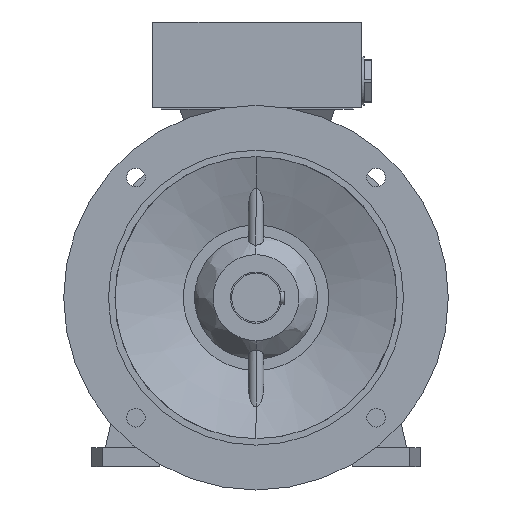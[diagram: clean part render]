
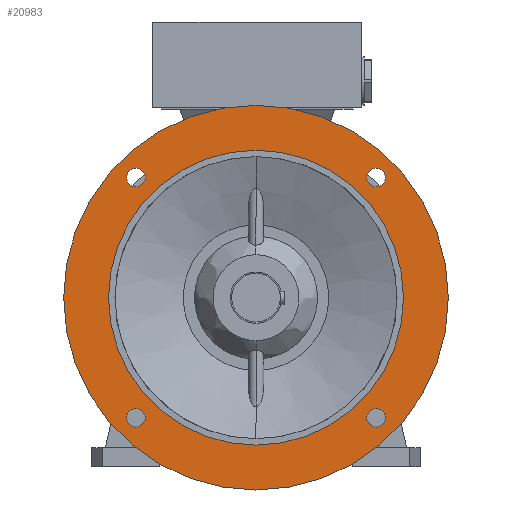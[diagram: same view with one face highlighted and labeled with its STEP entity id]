
A CAD part, left-side view. The second image highlights one B-rep face of the part: STEP entity #20983.
In plain terms, the highlighted planar face has unit normal (-1, 0, 0).
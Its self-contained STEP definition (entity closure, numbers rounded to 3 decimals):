
#737 = EDGE_CURVE ( 'NONE', #17603, #17576, #11877, .T. ) ;
#741 = EDGE_CURVE ( 'NONE', #17601, #17596, #11883, .T. ) ;
#745 = EDGE_CURVE ( 'NONE', #17600, #17583, #11889, .T. ) ;
#1430 = CIRCLE ( 'NONE', #23674, 7.25 ) ;
#1440 = CIRCLE ( 'NONE', #23677, 150. ) ;
#1441 = CIRCLE ( 'NONE', #23678, 115. ) ;
#2095 = CIRCLE ( 'NONE', #23717, 115. ) ;
#2141 = CIRCLE ( 'NONE', #15042, 150. ) ;
#2145 = CIRCLE ( 'NONE', #22232, 7.25 ) ;
#2147 = CIRCLE ( 'NONE', #22233, 7.25 ) ;
#2150 = CIRCLE ( 'NONE', #22234, 7.25 ) ;
#2152 = CIRCLE ( 'NONE', #22235, 7.25 ) ;
#3256 = FACE_BOUND ( 'NONE', #12426, .T. ) ;
#3281 = FACE_BOUND ( 'NONE', #12415, .T. ) ;
#3285 = FACE_OUTER_BOUND ( 'NONE', #12416, .T. ) ;
#3286 = FACE_BOUND ( 'NONE', #12420, .T. ) ;
#3287 = FACE_BOUND ( 'NONE', #12417, .T. ) ;
#3288 = FACE_BOUND ( 'NONE', #12414, .T. ) ;
#4018 = CARTESIAN_POINT ( 'NONE',  ( -50.5, -93.692, 93.692 ) ) ;
#4019 = DIRECTION ( 'NONE',  ( 1., 0., 0. ) ) ;
#4020 = DIRECTION ( 'NONE',  ( 0., 0., -1. ) ) ;
#4033 = CARTESIAN_POINT ( 'NONE',  ( -50.5, 0., 0. ) ) ;
#4034 = DIRECTION ( 'NONE',  ( 1., 0., 0. ) ) ;
#4035 = DIRECTION ( 'NONE',  ( 0., 0., 1. ) ) ;
#4039 = CARTESIAN_POINT ( 'NONE',  ( -50.5, 0., 0. ) ) ;
#4040 = DIRECTION ( 'NONE',  ( 1., 0., 0. ) ) ;
#4041 = DIRECTION ( 'NONE',  ( 0., 0., 1. ) ) ;
#4859 = CARTESIAN_POINT ( 'NONE',  ( -50.5, 0., 0. ) ) ;
#4861 = DIRECTION ( 'NONE',  ( 1., 0., 0. ) ) ;
#4863 = DIRECTION ( 'NONE',  ( 0., 0., 1. ) ) ;
#4906 = CARTESIAN_POINT ( 'NONE',  ( -50.5, 0., 0. ) ) ;
#4908 = DIRECTION ( 'NONE',  ( 1., 0., 0. ) ) ;
#4909 = DIRECTION ( 'NONE',  ( 0., 0., 1. ) ) ;
#4911 = CARTESIAN_POINT ( 'NONE',  ( -50.5, -93.692, 93.692 ) ) ;
#4913 = DIRECTION ( 'NONE',  ( 1., 0., 0. ) ) ;
#4915 = DIRECTION ( 'NONE',  ( 0., 0., -1. ) ) ;
#4919 = CARTESIAN_POINT ( 'NONE',  ( -50.5, 93.692, 93.692 ) ) ;
#4921 = DIRECTION ( 'NONE',  ( 1., 0., 0. ) ) ;
#4923 = DIRECTION ( 'NONE',  ( 0., 0., -1. ) ) ;
#4929 = CARTESIAN_POINT ( 'NONE',  ( -50.5, 93.692, -93.692 ) ) ;
#4931 = DIRECTION ( 'NONE',  ( 1., 0., 0. ) ) ;
#4933 = DIRECTION ( 'NONE',  ( 0., 0., -1. ) ) ;
#4938 = CARTESIAN_POINT ( 'NONE',  ( -50.5, -93.692, -93.692 ) ) ;
#4940 = DIRECTION ( 'NONE',  ( 1., 0., 0. ) ) ;
#4941 = DIRECTION ( 'NONE',  ( 0., 0., -1. ) ) ;
#6559 = CARTESIAN_POINT ( 'NONE',  ( -50.5, 0., -115. ) ) ;
#6574 = CARTESIAN_POINT ( 'NONE',  ( -50.5, -93.692, -100.942 ) ) ;
#6575 = CARTESIAN_POINT ( 'NONE',  ( -50.5, -93.692, 86.442 ) ) ;
#6581 = CARTESIAN_POINT ( 'NONE',  ( -50.5, 93.692, 86.442 ) ) ;
#6582 = CARTESIAN_POINT ( 'NONE',  ( -50.5, 0., 115. ) ) ;
#6583 = CARTESIAN_POINT ( 'NONE',  ( -50.5, -93.692, 100.942 ) ) ;
#6585 = CARTESIAN_POINT ( 'NONE',  ( -50.5, 0., -150. ) ) ;
#6594 = CARTESIAN_POINT ( 'NONE',  ( -50.5, 93.692, -100.942 ) ) ;
#6598 = CARTESIAN_POINT ( 'NONE',  ( -50.5, 93.692, 100.942 ) ) ;
#6599 = CARTESIAN_POINT ( 'NONE',  ( -50.5, 93.692, -86.442 ) ) ;
#6601 = CARTESIAN_POINT ( 'NONE',  ( -50.5, -93.692, -86.442 ) ) ;
#6606 = CARTESIAN_POINT ( 'NONE',  ( -50.5, 0., 150. ) ) ;
#8542 = CARTESIAN_POINT ( 'NONE',  ( -50.5, 93.692, 93.692 ) ) ;
#8543 = DIRECTION ( 'NONE',  ( 1., 0., 0. ) ) ;
#8544 = DIRECTION ( 'NONE',  ( 0., 0., -1. ) ) ;
#8616 = ORIENTED_EDGE ( 'NONE', *, *, #741, .T. ) ;
#8618 = ORIENTED_EDGE ( 'NONE', *, *, #26695, .T. ) ;
#8628 = ORIENTED_EDGE ( 'NONE', *, *, #745, .T. ) ;
#8633 = ORIENTED_EDGE ( 'NONE', *, *, #26078, .F. ) ;
#8634 = ORIENTED_EDGE ( 'NONE', *, *, #26689, .T. ) ;
#8636 = ORIENTED_EDGE ( 'NONE', *, *, #737, .T. ) ;
#8638 = ORIENTED_EDGE ( 'NONE', *, *, #26057, .T. ) ;
#8641 = ORIENTED_EDGE ( 'NONE', *, *, #26691, .T. ) ;
#8648 = ORIENTED_EDGE ( 'NONE', *, *, #26682, .F. ) ;
#8659 = ORIENTED_EDGE ( 'NONE', *, *, #26644, .T. ) ;
#8662 = ORIENTED_EDGE ( 'NONE', *, *, #26084, .T. ) ;
#8664 = ORIENTED_EDGE ( 'NONE', *, *, #26686, .T. ) ;
#9517 = CARTESIAN_POINT ( 'NONE',  ( -50.5, -93.692, -93.692 ) ) ;
#9518 = DIRECTION ( 'NONE',  ( 1., 0., 0. ) ) ;
#9519 = DIRECTION ( 'NONE',  ( 0., 0., -1. ) ) ;
#9527 = CARTESIAN_POINT ( 'NONE',  ( -50.5, 93.692, -93.692 ) ) ;
#9528 = DIRECTION ( 'NONE',  ( 1., 0., 0. ) ) ;
#9529 = DIRECTION ( 'NONE',  ( 0., 0., -1. ) ) ;
#11877 = CIRCLE ( 'NONE', #16015, 7.25 ) ;
#11883 = CIRCLE ( 'NONE', #16017, 7.25 ) ;
#11889 = CIRCLE ( 'NONE', #16019, 7.25 ) ;
#12414 = EDGE_LOOP ( 'NONE', ( #8618, #8636 ) ) ;
#12415 = EDGE_LOOP ( 'NONE', ( #8664, #8638 ) ) ;
#12416 = EDGE_LOOP ( 'NONE', ( #8648, #8633 ) ) ;
#12417 = EDGE_LOOP ( 'NONE', ( #8659, #8662 ) ) ;
#12420 = EDGE_LOOP ( 'NONE', ( #8634, #8628 ) ) ;
#12426 = EDGE_LOOP ( 'NONE', ( #8641, #8616 ) ) ;
#14995 = AXIS2_PLACEMENT_3D ( 'NONE', #26997, #26986, #26999 ) ;
#15042 = AXIS2_PLACEMENT_3D ( 'NONE', #4906, #4908, #4909 ) ;
#16015 = AXIS2_PLACEMENT_3D ( 'NONE', #9517, #9518, #9519 ) ;
#16017 = AXIS2_PLACEMENT_3D ( 'NONE', #9527, #9528, #9529 ) ;
#16019 = AXIS2_PLACEMENT_3D ( 'NONE', #8542, #8543, #8544 ) ;
#17570 = VERTEX_POINT ( 'NONE', #6559 ) ;
#17576 = VERTEX_POINT ( 'NONE', #6574 ) ;
#17577 = VERTEX_POINT ( 'NONE', #6575 ) ;
#17583 = VERTEX_POINT ( 'NONE', #6581 ) ;
#17584 = VERTEX_POINT ( 'NONE', #6582 ) ;
#17585 = VERTEX_POINT ( 'NONE', #6583 ) ;
#17587 = VERTEX_POINT ( 'NONE', #6585 ) ;
#17596 = VERTEX_POINT ( 'NONE', #6594 ) ;
#17600 = VERTEX_POINT ( 'NONE', #6598 ) ;
#17601 = VERTEX_POINT ( 'NONE', #6599 ) ;
#17603 = VERTEX_POINT ( 'NONE', #6601 ) ;
#17608 = VERTEX_POINT ( 'NONE', #6606 ) ;
#20983 = ADVANCED_FACE ( 'NONE', ( #3285, #3287, #3281, #3286, #3256, #3288 ), #26983, .T. ) ;
#22232 = AXIS2_PLACEMENT_3D ( 'NONE', #4911, #4913, #4915 ) ;
#22233 = AXIS2_PLACEMENT_3D ( 'NONE', #4919, #4921, #4923 ) ;
#22234 = AXIS2_PLACEMENT_3D ( 'NONE', #4929, #4931, #4933 ) ;
#22235 = AXIS2_PLACEMENT_3D ( 'NONE', #4938, #4940, #4941 ) ;
#23674 = AXIS2_PLACEMENT_3D ( 'NONE', #4018, #4019, #4020 ) ;
#23677 = AXIS2_PLACEMENT_3D ( 'NONE', #4033, #4034, #4035 ) ;
#23678 = AXIS2_PLACEMENT_3D ( 'NONE', #4039, #4040, #4041 ) ;
#23717 = AXIS2_PLACEMENT_3D ( 'NONE', #4859, #4861, #4863 ) ;
#26057 = EDGE_CURVE ( 'NONE', #17585, #17577, #1430, .T. ) ;
#26078 = EDGE_CURVE ( 'NONE', #17587, #17608, #1440, .T. ) ;
#26084 = EDGE_CURVE ( 'NONE', #17570, #17584, #1441, .T. ) ;
#26644 = EDGE_CURVE ( 'NONE', #17584, #17570, #2095, .T. ) ;
#26682 = EDGE_CURVE ( 'NONE', #17608, #17587, #2141, .T. ) ;
#26686 = EDGE_CURVE ( 'NONE', #17577, #17585, #2145, .T. ) ;
#26689 = EDGE_CURVE ( 'NONE', #17583, #17600, #2147, .T. ) ;
#26691 = EDGE_CURVE ( 'NONE', #17596, #17601, #2150, .T. ) ;
#26695 = EDGE_CURVE ( 'NONE', #17576, #17603, #2152, .T. ) ;
#26983 = PLANE ( 'NONE',  #14995 ) ;
#26986 = DIRECTION ( 'NONE',  ( -1., 0., 0. ) ) ;
#26997 = CARTESIAN_POINT ( 'NONE',  ( -50.5, 132.5, 0. ) ) ;
#26999 = DIRECTION ( 'NONE',  ( 0., 0., 1. ) ) ;
